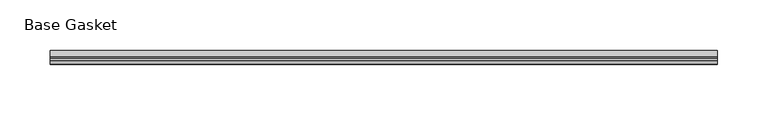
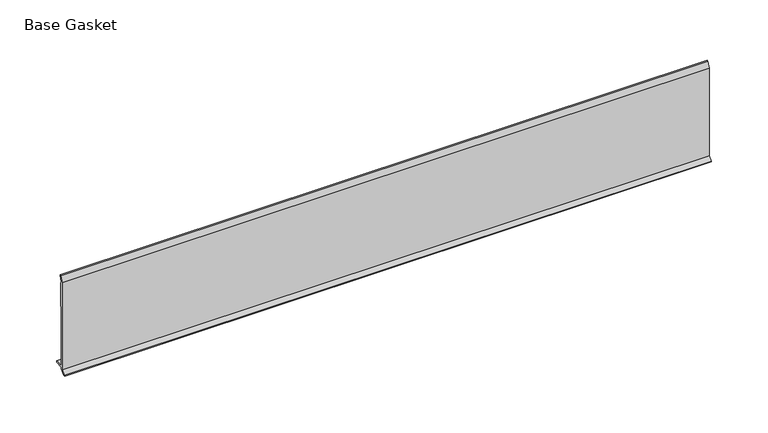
"""IFC4 building model written with IfcOpenShell, lengths in millimetres: furniture geometry, Gasket-Teknion-FHGB-AI_Healthcare-R2021 : Base Gasket."""

from ifc_helpers import new_model, si_unit, frame, origin, place, context, project, spatial, polyline, outline, extrude, source, transform, mapped, element, save


def base_gasket_82b5b283(model_context):
    return source(origin(), model_context, "Body", "SweptSolid", [
        extrude(outline(polyline([(-3.7283812, 98.4568417), (-1.1891543, 104.587663), (-0.6755308, 105.2002997), (-0.6755308, 104.4162708), (-2.2043812, 98.4568417), (-2.2043812, 96.8693477), (-1.4106313, 96.8693477), (-1.4106313, 71.4693447), (-2.2043812, 71.4693447), (-2.2043812, 7.9398773), (6.2405171, 7.9398773), (6.2405171, 6.3818476), (-2.1334222, 6.3818476), (-2.2043812, 4.3498477), (-6.8281054, 0.3520979), (-7.8482342, 0.0), (-7.4222115, 0.6560174), (-3.7283812, 4.3498477), (-3.7283812, 98.4568417)])), frame((-1527.8982117, 0.0, 0.0), z_axis=(1.0, 0.0, 0.0), x_axis=(0.0, 1.0, 0.0)), (0.0, 0.0, 1.0), 660.4),
    ])


if __name__ == "__main__":
    model = new_model("IFC4")
    model_context = context("Model", 3, world=origin())
    ifc_project = project(units=[si_unit("LENGTHUNIT", "METRE", prefix="MILLI")], contexts=[model_context])
    site = spatial("IfcSite", under=ifc_project)
    building = spatial("IfcBuilding", under=site)
    placement = place(None, origin())
    base_gasket_shape = base_gasket_82b5b283(model_context)
    element("IfcFurniture", 1, ObjectType="Gasket-Teknion-FHGB-AI_Healthcare-R2021 : Base Gasket", at=placement, inside=building, context=model_context, shape_type="MappedRepresentation", body=[
        mapped(base_gasket_shape, transform((0.0, 0.0, 0.0), x_axis=(1.0, 0.0, 0.0), y_axis=(0.0, 1.0, 0.0), z_axis=(0.0, 0.0, 1.0))),
    ])
    save(model, "model.ifc")
